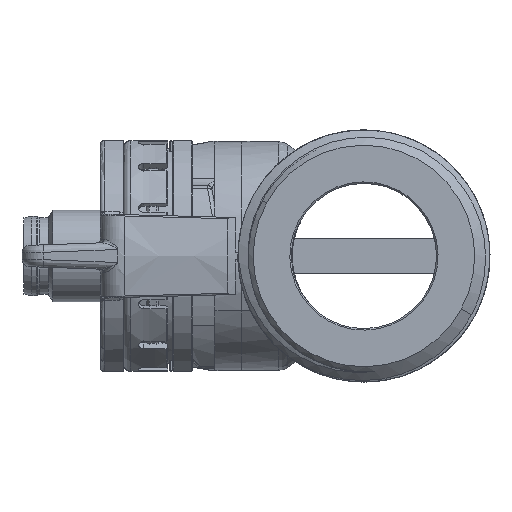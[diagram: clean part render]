
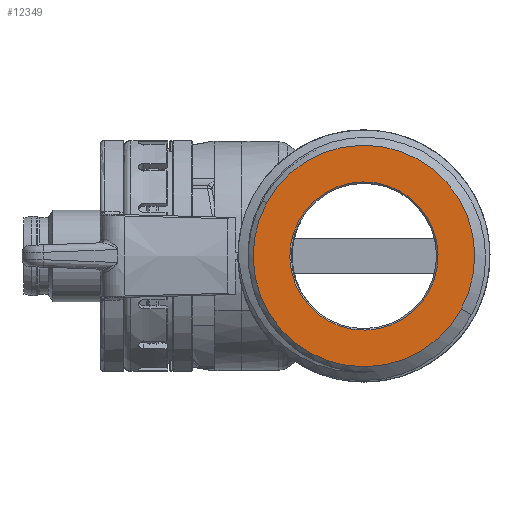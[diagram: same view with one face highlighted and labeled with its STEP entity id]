
A CAD part, left-side view. The second image highlights one B-rep face of the part: STEP entity #12349.
In plain terms, the highlighted planar face has unit normal (-1, 0, 0).
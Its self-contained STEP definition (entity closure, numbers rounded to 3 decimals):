
#8328=PLANE('',#29895);
#12349=ADVANCED_FACE('CRP.L613_D200808MM8801',(#15180,#15181),#8328,.F.);
#15180=FACE_BOUND('',#15640,.T.);
#15181=FACE_BOUND('',#15641,.T.);
#15640=EDGE_LOOP('',(#18047,#18048));
#15641=EDGE_LOOP('',(#18049,#18050));
#18047=ORIENTED_EDGE('',*,*,#26228,.F.);
#18048=ORIENTED_EDGE('',*,*,#26229,.F.);
#18049=ORIENTED_EDGE('',*,*,#26215,.T.);
#18050=ORIENTED_EDGE('',*,*,#26218,.T.);
#23845=VERTEX_POINT('',#44912);
#23846=VERTEX_POINT('',#44913);
#23853=VERTEX_POINT('',#44969);
#23854=VERTEX_POINT('',#44970);
#26215=EDGE_CURVE('',#23845,#23846,#28983,.T.);
#26218=EDGE_CURVE('',#23846,#23845,#28984,.T.);
#26228=EDGE_CURVE('',#23853,#23854,#28987,.T.);
#26229=EDGE_CURVE('',#23854,#23853,#28988,.T.);
#28983=CIRCLE('',#29885,9.7);
#28984=CIRCLE('',#29887,9.7);
#28987=CIRCLE('',#29893,14.5);
#28988=CIRCLE('',#29894,14.5);
#29885=AXIS2_PLACEMENT_3D('',#44911,#32315,#32316);
#29887=AXIS2_PLACEMENT_3D('',#44917,#32321,#32322);
#29893=AXIS2_PLACEMENT_3D('',#44968,#32336,#32337);
#29894=AXIS2_PLACEMENT_3D('',#44971,#32338,#32339);
#29895=AXIS2_PLACEMENT_3D('',#44972,#32340,#32341);
#32315=DIRECTION('',(1.,0.,0.));
#32316=DIRECTION('',(0.,1.,0.));
#32321=DIRECTION('',(1.,0.,0.));
#32322=DIRECTION('',(0.,1.,0.));
#32336=DIRECTION('',(1.,0.,0.));
#32337=DIRECTION('',(0.,-1.,0.));
#32338=DIRECTION('',(1.,0.,0.));
#32339=DIRECTION('',(0.,-1.,0.));
#32340=DIRECTION('',(1.,0.,0.));
#32341=DIRECTION('',(0.,0.,1.));
#44911=CARTESIAN_POINT('',(-64.4,-21.9,0.));
#44912=CARTESIAN_POINT('',(-64.4,-30.413,-4.65));
#44913=CARTESIAN_POINT('',(-64.4,-13.387,4.65));
#44917=CARTESIAN_POINT('',(-64.4,-21.9,0.));
#44968=CARTESIAN_POINT('',(-64.4,-21.9,0.));
#44969=CARTESIAN_POINT('',(-64.4,-9.175,6.952));
#44970=CARTESIAN_POINT('',(-64.4,-34.625,-6.952));
#44971=CARTESIAN_POINT('',(-64.4,-21.9,0.));
#44972=CARTESIAN_POINT('',(-64.4,-7.4,0.));
